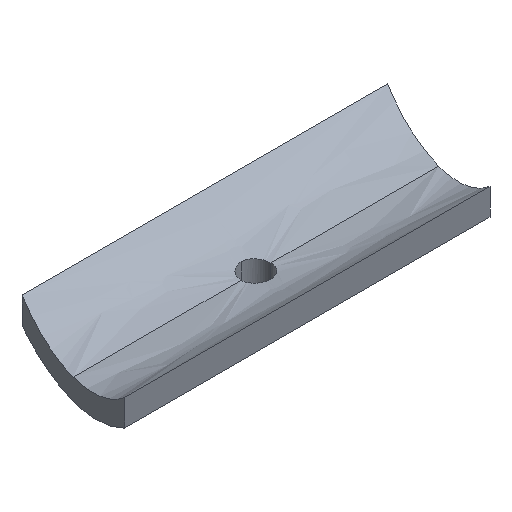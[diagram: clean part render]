
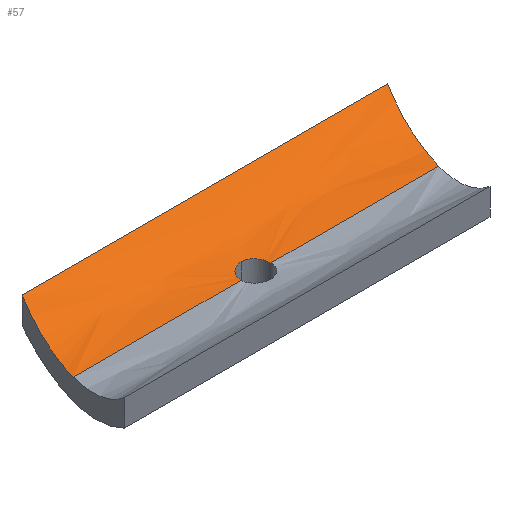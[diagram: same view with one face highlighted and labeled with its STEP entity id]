
A CAD part, isometric view. The second image highlights one B-rep face of the part: STEP entity #57.
In plain terms, the highlighted free-form (B-spline) face has degree [3, 1] with [4, 2] control points.
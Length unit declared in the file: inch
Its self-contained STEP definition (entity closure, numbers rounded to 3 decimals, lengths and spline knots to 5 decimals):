
#57=ADVANCED_FACE('',(#108),#109,.T.);
#108=FACE_OUTER_BOUND('',#193,.T.);
#109=B_SPLINE_SURFACE_WITH_KNOTS('',3,1,((#194,#195),(#196,#197),(#198,#199),(#200,#201)),.UNSPECIFIED.,.F.,.F.,.F.,(4,4),(2,2),(0.0,1.0),(0.0,1.4375),.UNSPECIFIED.);
#193=EDGE_LOOP('',(#284,#285,#286,#287,#288,#289,#290,#291,#292));
#194=CARTESIAN_POINT('',(1.4375,0.24984,-0.09535));
#195=CARTESIAN_POINT('',(0.,0.24984,-0.09535));
#196=CARTESIAN_POINT('',(1.4375,0.34597,-0.09535));
#197=CARTESIAN_POINT('',(0.,0.34597,-0.09535));
#198=CARTESIAN_POINT('',(1.4375,0.43364,-0.05919));
#199=CARTESIAN_POINT('',(0.,0.43364,-0.05919));
#200=CARTESIAN_POINT('',(1.4375,0.5,0.00027));
#201=CARTESIAN_POINT('',(0.,0.5,0.00027));
#284=ORIENTED_EDGE('',*,*,#333,.T.);
#285=ORIENTED_EDGE('',*,*,#329,.T.);
#286=ORIENTED_EDGE('',*,*,#338,.T.);
#287=ORIENTED_EDGE('',*,*,#318,.T.);
#288=ORIENTED_EDGE('',*,*,#356,.F.);
#289=ORIENTED_EDGE('',*,*,#358,.T.);
#290=ORIENTED_EDGE('',*,*,#343,.T.);
#291=ORIENTED_EDGE('',*,*,#347,.T.);
#292=ORIENTED_EDGE('',*,*,#354,.F.);
#318=EDGE_CURVE('',#372,#370,#373,.T.);
#329=EDGE_CURVE('',#391,#389,#392,.T.);
#333=EDGE_CURVE('',#397,#391,#398,.T.);
#338=EDGE_CURVE('',#389,#372,#403,.T.);
#343=EDGE_CURVE('',#405,#410,#412,.T.);
#347=EDGE_CURVE('',#410,#416,#418,.T.);
#354=EDGE_CURVE('',#397,#416,#426,.T.);
#356=EDGE_CURVE('',#427,#370,#429,.T.);
#358=EDGE_CURVE('',#427,#405,#431,.T.);
#370=VERTEX_POINT('',#458);
#372=VERTEX_POINT('',#471);
#373=B_SPLINE_CURVE_WITH_KNOTS('',3,(#472,#473,#474,#475),.UNSPECIFIED.,.F.,.F.,(4,4),(0.0,0.00016),.UNSPECIFIED.);
#389=VERTEX_POINT('',#511);
#391=VERTEX_POINT('',#514);
#392=B_SPLINE_CURVE_WITH_KNOTS('',3,(#515,#516,#517,#518,#519,#520,#521,#522,#523,#524,#525,#526),.UNSPECIFIED.,.F.,.F.,(4,2,2,2,2,4),(0.0,0.02033,0.04066,0.06171,0.07257,0.08377),.UNSPECIFIED.);
#397=VERTEX_POINT('',#535);
#398=B_SPLINE_CURVE_WITH_KNOTS('',3,(#536,#537,#538,#539),.UNSPECIFIED.,.F.,.F.,(4,4),(0.0,0.00016),.UNSPECIFIED.);
#403=B_SPLINE_CURVE_WITH_KNOTS('',3,(#577,#578,#579,#580,#581,#582,#583,#584,#585,#586,#587,#588),.UNSPECIFIED.,.F.,.F.,(4,2,2,2,2,4),(0.0,0.02032,0.04066,0.06171,0.07258,0.08378),.UNSPECIFIED.);
#405=VERTEX_POINT('',#590);
#410=VERTEX_POINT('',#597);
#412=LINE('',#600,#601);
#416=VERTEX_POINT('',#610);
#418=B_SPLINE_CURVE_WITH_KNOTS('',3,(#617,#618,#619,#620,#621,#622),.UNSPECIFIED.,.F.,.F.,(4,2,4),(-0.28345,-0.14449,-0.0),.UNSPECIFIED.);
#426=LINE('',#642,#643);
#427=VERTEX_POINT('',#644);
#429=LINE('',#651,#652);
#431=B_SPLINE_CURVE_WITH_KNOTS('',3,(#654,#655,#656,#657,#658,#659),.UNSPECIFIED.,.F.,.F.,(4,2,4),(-0.28265,-0.13795,-0.0),.UNSPECIFIED.);
#458=CARTESIAN_POINT('',(0.77176,0.24984,-0.09535));
#471=CARTESIAN_POINT('',(0.77176,0.25,-0.09535));
#472=CARTESIAN_POINT('',(0.77176,0.25,-0.09535));
#473=CARTESIAN_POINT('',(0.77176,0.24995,-0.09535));
#474=CARTESIAN_POINT('',(0.77176,0.2499,-0.09535));
#475=CARTESIAN_POINT('',(0.77176,0.24984,-0.09535));
#511=CARTESIAN_POINT('',(0.71875,0.303,-0.09162));
#514=CARTESIAN_POINT('',(0.66576,0.25,-0.09535));
#515=CARTESIAN_POINT('',(0.66576,0.25,-0.09535));
#516=CARTESIAN_POINT('',(0.66576,0.25678,-0.09535));
#517=CARTESIAN_POINT('',(0.66703,0.26343,-0.09516));
#518=CARTESIAN_POINT('',(0.67205,0.27598,-0.09451));
#519=CARTESIAN_POINT('',(0.67575,0.2817,-0.09405));
#520=CARTESIAN_POINT('',(0.68522,0.29163,-0.09309));
#521=CARTESIAN_POINT('',(0.691,0.2957,-0.09259));
#522=CARTESIAN_POINT('',(0.7007,0.29998,-0.09203));
#523=CARTESIAN_POINT('',(0.70414,0.30109,-0.09188));
#524=CARTESIAN_POINT('',(0.71132,0.30261,-0.09167));
#525=CARTESIAN_POINT('',(0.71502,0.303,-0.09162));
#526=CARTESIAN_POINT('',(0.71875,0.303,-0.09162));
#535=CARTESIAN_POINT('',(0.66576,0.24984,-0.09535));
#536=CARTESIAN_POINT('',(0.66576,0.24984,-0.09535));
#537=CARTESIAN_POINT('',(0.66576,0.2499,-0.09535));
#538=CARTESIAN_POINT('',(0.66576,0.24995,-0.09535));
#539=CARTESIAN_POINT('',(0.66576,0.25,-0.09535));
#577=CARTESIAN_POINT('',(0.71875,0.303,-0.09162));
#578=CARTESIAN_POINT('',(0.72552,0.303,-0.09162));
#579=CARTESIAN_POINT('',(0.73218,0.30173,-0.0918));
#580=CARTESIAN_POINT('',(0.74472,0.29671,-0.09246));
#581=CARTESIAN_POINT('',(0.75045,0.29301,-0.09293));
#582=CARTESIAN_POINT('',(0.76038,0.28353,-0.09389));
#583=CARTESIAN_POINT('',(0.76445,0.27776,-0.09438));
#584=CARTESIAN_POINT('',(0.76873,0.26806,-0.09493));
#585=CARTESIAN_POINT('',(0.76984,0.26461,-0.09508));
#586=CARTESIAN_POINT('',(0.77137,0.25743,-0.0953));
#587=CARTESIAN_POINT('',(0.77176,0.25373,-0.09535));
#588=CARTESIAN_POINT('',(0.77176,0.25,-0.09535));
#590=CARTESIAN_POINT('',(1.4375,0.5,0.00027));
#597=CARTESIAN_POINT('',(0.13398,0.5,0.00027));
#600=CARTESIAN_POINT('',(1.4375,0.5,0.00027));
#601=VECTOR('',#677,1.0);
#610=CARTESIAN_POINT('',(0.06695,0.24984,-0.09535));
#617=CARTESIAN_POINT('',(0.13398,0.5,0.00027));
#618=CARTESIAN_POINT('',(0.12494,0.46627,-0.02995));
#619=CARTESIAN_POINT('',(0.11456,0.42754,-0.05371));
#620=CARTESIAN_POINT('',(0.09171,0.34227,-0.08688));
#621=CARTESIAN_POINT('',(0.07941,0.29637,-0.09535));
#622=CARTESIAN_POINT('',(0.06695,0.24984,-0.09535));
#642=CARTESIAN_POINT('',(1.4375,0.24984,-0.09535));
#643=VECTOR('',#680,1.0);
#644=CARTESIAN_POINT('',(1.37047,0.24984,-0.09535));
#651=CARTESIAN_POINT('',(1.4375,0.24984,-0.09535));
#652=VECTOR('',#681,1.0);
#654=CARTESIAN_POINT('',(1.37047,0.24984,-0.09535));
#655=CARTESIAN_POINT('',(1.38299,0.29657,-0.09535));
#656=CARTESIAN_POINT('',(1.39534,0.34266,-0.08681));
#657=CARTESIAN_POINT('',(1.41818,0.42788,-0.05351));
#658=CARTESIAN_POINT('',(1.4285,0.46642,-0.02982));
#659=CARTESIAN_POINT('',(1.4375,0.5,0.00027));
#677=DIRECTION('',(-1.0,0.0,0.));
#680=DIRECTION('',(-1.0,0.0,0.));
#681=DIRECTION('',(-1.0,0.0,0.));
